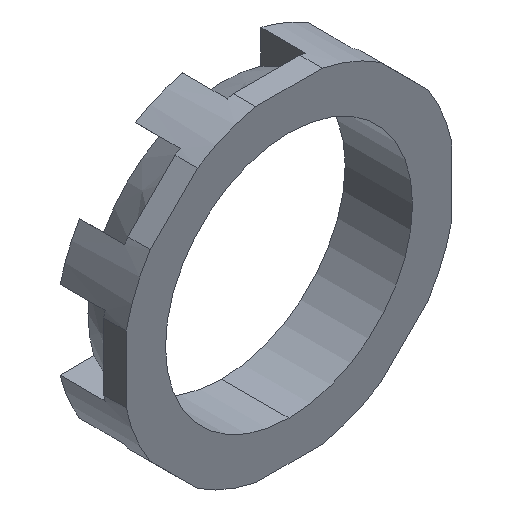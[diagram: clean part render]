
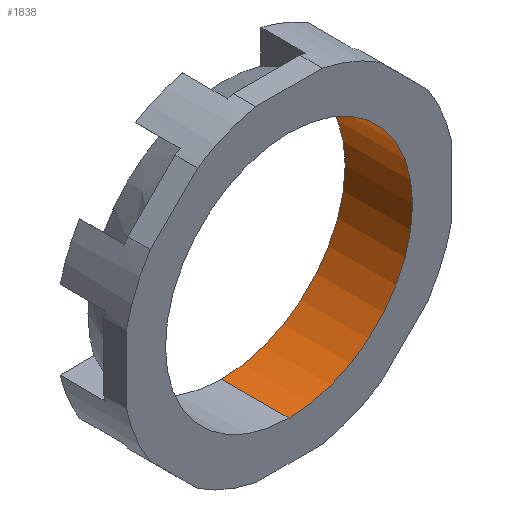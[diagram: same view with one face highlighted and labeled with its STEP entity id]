
A CAD part, isometric view. The second image highlights one B-rep face of the part: STEP entity #1838.
In plain terms, the highlighted cylindrical face has radius 11 mm (diameter 22 mm), a partial arc.
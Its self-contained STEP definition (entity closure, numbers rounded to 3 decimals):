
#19 = ORIENTED_EDGE ( 'NONE', *, *, #1062, .T. ) ;
#70 = VECTOR ( 'NONE', #815, 1000. ) ;
#114 = LINE ( 'NONE', #1804, #70 ) ;
#303 = DIRECTION ( 'NONE',  ( 0., 1., 0. ) ) ;
#375 = CYLINDRICAL_SURFACE ( 'NONE', #1594, 11. ) ;
#408 = CARTESIAN_POINT ( 'NONE',  ( 0., 6., -11. ) ) ;
#515 = CARTESIAN_POINT ( 'NONE',  ( 0., 6., 0. ) ) ;
#584 = CIRCLE ( 'NONE', #1040, 11. ) ;
#611 = ORIENTED_EDGE ( 'NONE', *, *, #1819, .T. ) ;
#722 = DIRECTION ( 'NONE',  ( 0., -1., 0. ) ) ;
#815 = DIRECTION ( 'NONE',  ( 0., 1., 0. ) ) ;
#878 = LINE ( 'NONE', #1276, #1205 ) ;
#886 = CARTESIAN_POINT ( 'NONE',  ( 0., -31.113, 0. ) ) ;
#950 = AXIS2_PLACEMENT_3D ( 'NONE', #515, #1656, #1868 ) ;
#954 = CARTESIAN_POINT ( 'NONE',  ( 0., 6., 11. ) ) ;
#1040 = AXIS2_PLACEMENT_3D ( 'NONE', #1700, #722, #1871 ) ;
#1062 = EDGE_CURVE ( 'NONE', #1250, #1326, #2098, .T. ) ;
#1171 = ORIENTED_EDGE ( 'NONE', *, *, #1194, .T. ) ;
#1194 = EDGE_CURVE ( 'NONE', #2096, #1250, #878, .T. ) ;
#1205 = VECTOR ( 'NONE', #303, 1000. ) ;
#1250 = VERTEX_POINT ( 'NONE', #954 ) ;
#1276 = CARTESIAN_POINT ( 'NONE',  ( 0., -31.113, 11. ) ) ;
#1326 = VERTEX_POINT ( 'NONE', #408 ) ;
#1471 = CARTESIAN_POINT ( 'NONE',  ( 0., 0., 11. ) ) ;
#1552 = DIRECTION ( 'NONE',  ( 0., 0., 1. ) ) ;
#1568 = VERTEX_POINT ( 'NONE', #2140 ) ;
#1594 = AXIS2_PLACEMENT_3D ( 'NONE', #886, #1867, #1552 ) ;
#1629 = EDGE_LOOP ( 'NONE', ( #2116, #611, #1171, #19 ) ) ;
#1656 = DIRECTION ( 'NONE',  ( 0., 1., 0. ) ) ;
#1700 = CARTESIAN_POINT ( 'NONE',  ( 0., 0., 0. ) ) ;
#1804 = CARTESIAN_POINT ( 'NONE',  ( 0., -31.113, -11. ) ) ;
#1819 = EDGE_CURVE ( 'NONE', #1568, #2096, #584, .T. ) ;
#1838 = ADVANCED_FACE ( 'NONE', ( #1890 ), #375, .F. ) ;
#1867 = DIRECTION ( 'NONE',  ( 0., 1., 0. ) ) ;
#1868 = DIRECTION ( 'NONE',  ( 0., 0., 1. ) ) ;
#1871 = DIRECTION ( 'NONE',  ( 0., 0., 1. ) ) ;
#1890 = FACE_OUTER_BOUND ( 'NONE', #1629, .T. ) ;
#1932 = EDGE_CURVE ( 'NONE', #1568, #1326, #114, .T. ) ;
#2096 = VERTEX_POINT ( 'NONE', #1471 ) ;
#2098 = CIRCLE ( 'NONE', #950, 11. ) ;
#2116 = ORIENTED_EDGE ( 'NONE', *, *, #1932, .F. ) ;
#2140 = CARTESIAN_POINT ( 'NONE',  ( 0., 0., -11. ) ) ;
